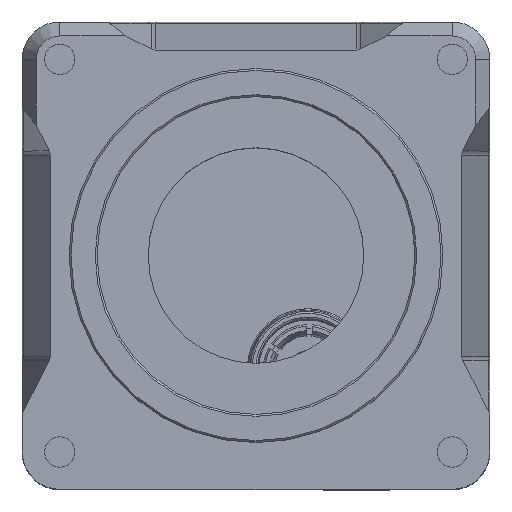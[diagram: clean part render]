
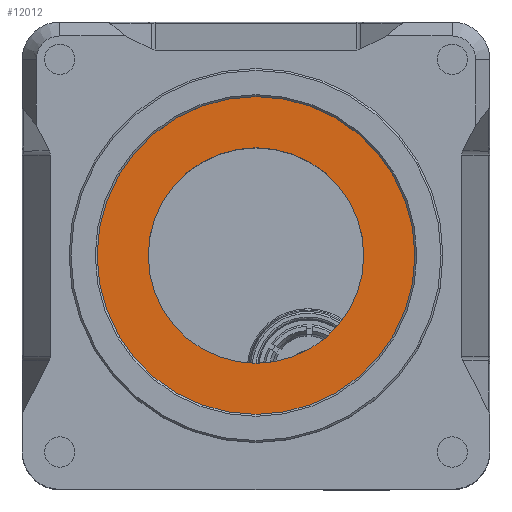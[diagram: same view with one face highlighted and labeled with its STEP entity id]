
A CAD part, top view. The second image highlights one B-rep face of the part: STEP entity #12012.
In plain terms, the highlighted planar face has unit normal (0, 0, 1) as drawn and (0, -1, 0) by its records, which use the part's own axes.
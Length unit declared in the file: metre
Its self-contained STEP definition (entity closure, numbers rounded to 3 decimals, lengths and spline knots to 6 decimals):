
#884=CIRCLE('',#13355,0.005764);
#885=CIRCLE('',#13356,0.0085);
#4077=ORIENTED_EDGE('',*,*,#6087,.T.);
#4078=ORIENTED_EDGE('',*,*,#6088,.T.);
#6087=EDGE_CURVE('',#7321,#7321,#884,.T.);
#6088=EDGE_CURVE('',#7322,#7322,#885,.T.);
#7321=VERTEX_POINT('',#20751);
#7322=VERTEX_POINT('',#20753);
#10128=EDGE_LOOP('',(#4077));
#10129=EDGE_LOOP('',(#4078));
#10988=FACE_BOUND('',#10128,.T.);
#10989=FACE_BOUND('',#10129,.T.);
#11371=PLANE('',#13354);
#12012=ADVANCED_FACE('',(#10988,#10989),#11371,.T.);
#13354=AXIS2_PLACEMENT_3D('',#20749,#16677,#16678);
#13355=AXIS2_PLACEMENT_3D('',#20750,#16679,#16680);
#13356=AXIS2_PLACEMENT_3D('',#20752,#16681,#16682);
#16677=DIRECTION('',(0.,-1.,0.));
#16678=DIRECTION('',(1.,0.,0.));
#16679=DIRECTION('',(0.,1.,0.));
#16680=DIRECTION('',(-1.,0.,0.));
#16681=DIRECTION('',(0.,-1.,0.));
#16682=DIRECTION('',(1.,0.,0.));
#20749=CARTESIAN_POINT('',(0.,-0.003775,0.));
#20750=CARTESIAN_POINT('',(0.,-0.003775,0.));
#20751=CARTESIAN_POINT('',(-0.005764,-0.003775,0.));
#20752=CARTESIAN_POINT('',(0.,-0.003775,0.));
#20753=CARTESIAN_POINT('',(0.0085,-0.003775,0.));
